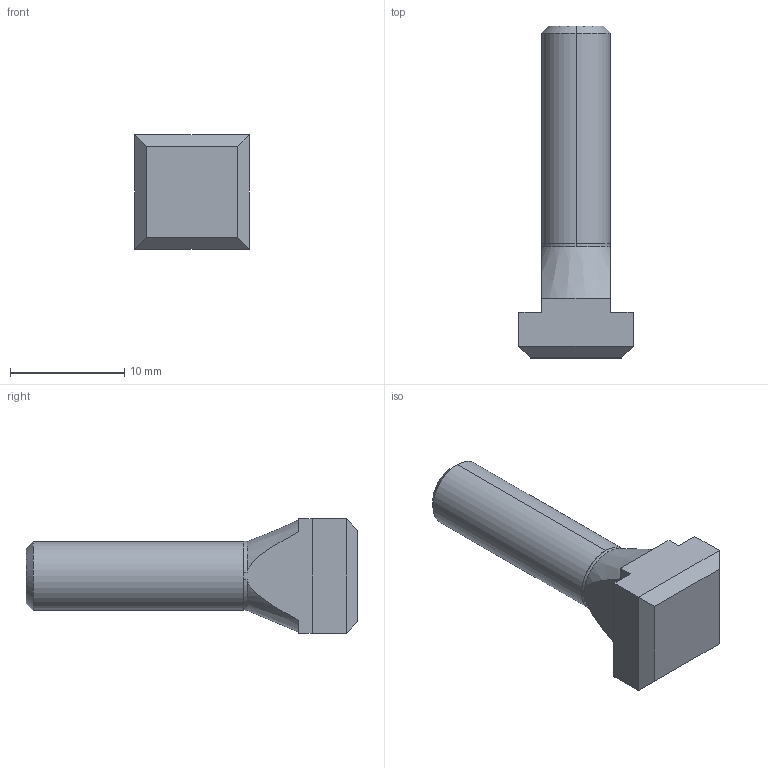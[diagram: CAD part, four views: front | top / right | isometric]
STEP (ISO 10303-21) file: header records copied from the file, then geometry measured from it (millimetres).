
FILE_DESCRIPTION (( 'STEP AP203' ), '1' );
FILE_NAME ('Wiberger-din787_6-m6x25.step', '2016-07-01T13:16:49', ( 'Magnus' ), ( 'Microsoft' ), 'SwSTEP 2.0', 'SolidWorks 2016', '' );
FILE_SCHEMA (( 'CONFIG_CONTROL_DESIGN' ));
Length unit declared in the file: millimetre
Products named in the file (1): Wiberger-din787_6-m6x25
Bounding box: 10 x 29 x 10 mm (x, y, z)
Volume: 1185.7 mm3; surface area: 816.3 mm2
Topology: 1 solids, 1 shells, 28 faces, 70 edges, 44 vertices
Faces by surface type: plane 18, cone 5, cylinder 5
Entity records: 953 total; most frequent: CARTESIAN_POINT 207, ORIENTED_EDGE 140, DIRECTION 138, EDGE_CURVE 70, AXIS2_PLACEMENT_3D 47, VERTEX_POINT 44, VECTOR 44, LINE 44
